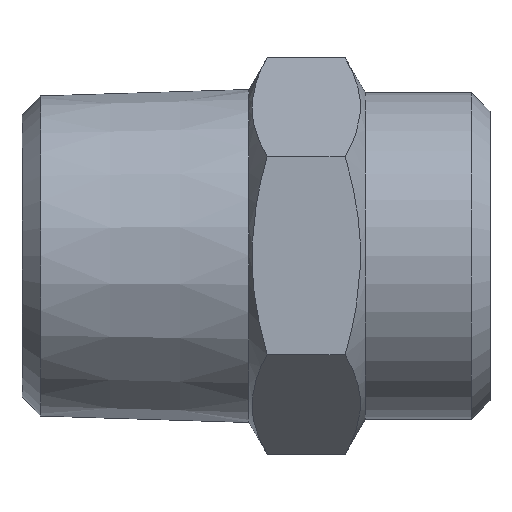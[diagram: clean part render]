
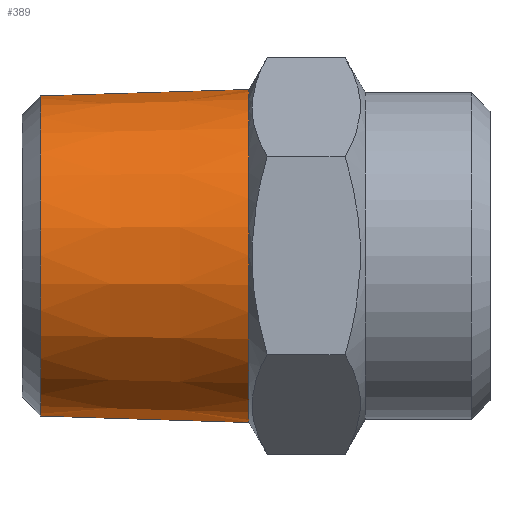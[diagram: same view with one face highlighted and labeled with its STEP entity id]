
A CAD part, top view. The second image highlights one B-rep face of the part: STEP entity #389.
In plain terms, the highlighted conical face has half-angle 1.78 degrees and reference radius 10.446 mm.
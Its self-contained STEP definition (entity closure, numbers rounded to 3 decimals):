
#269=CARTESIAN_POINT('',(14.547,10.672,0.0));
#270=VERTEX_POINT('',#269);
#277=CARTESIAN_POINT('',(14.547,-10.672,0.));
#278=VERTEX_POINT('',#277);
#279=CARTESIAN_POINT('',(14.547,0.0,0.0));
#280=DIRECTION('',(1.0,0.0,0.0));
#281=DIRECTION('',(0.0,1.0,0.0));
#282=AXIS2_PLACEMENT_3D('',#279,#280,#281);
#283=CIRCLE('',#282,10.672);
#284=EDGE_CURVE('',#270,#278,#283,.T.);
#358=CARTESIAN_POINT('',(7.274,0.0,0.0));
#359=DIRECTION('',(1.0,0.0,0.0));
#360=DIRECTION('',(0.0,1.0,0.0));
#361=AXIS2_PLACEMENT_3D('',#358,#359,#360);
#362=CONICAL_SURFACE('',#361,10.446,1.78);
#363=CARTESIAN_POINT('',(1.199,10.257,0.));
#364=VERTEX_POINT('',#363);
#365=CARTESIAN_POINT('',(1.199,10.257,0.));
#366=DIRECTION('',(1.,0.031,0.));
#367=VECTOR('',#366,13.354);
#368=LINE('',#365,#367);
#369=EDGE_CURVE('',#364,#270,#368,.T.);
#370=ORIENTED_EDGE('',*,*,#369,.F.);
#371=CARTESIAN_POINT('',(1.199,-10.257,0.));
#372=VERTEX_POINT('',#371);
#373=CARTESIAN_POINT('',(1.199,0.0,0.));
#374=DIRECTION('',(-1.0,0.0,0.0));
#375=DIRECTION('',(0.0,-1.0,0.0));
#376=AXIS2_PLACEMENT_3D('',#373,#374,#375);
#377=CIRCLE('',#376,10.257);
#378=EDGE_CURVE('',#372,#364,#377,.T.);
#379=ORIENTED_EDGE('',*,*,#378,.F.);
#380=CARTESIAN_POINT('',(14.547,-10.672,0.));
#381=DIRECTION('',(-1.,0.031,0.));
#382=VECTOR('',#381,13.354);
#383=LINE('',#380,#382);
#384=EDGE_CURVE('',#278,#372,#383,.T.);
#385=ORIENTED_EDGE('',*,*,#384,.F.);
#386=ORIENTED_EDGE('',*,*,#284,.F.);
#387=EDGE_LOOP('',(#370,#379,#385,#386));
#388=FACE_OUTER_BOUND('',#387,.T.);
#389=ADVANCED_FACE('',(#388),#362,.T.);
